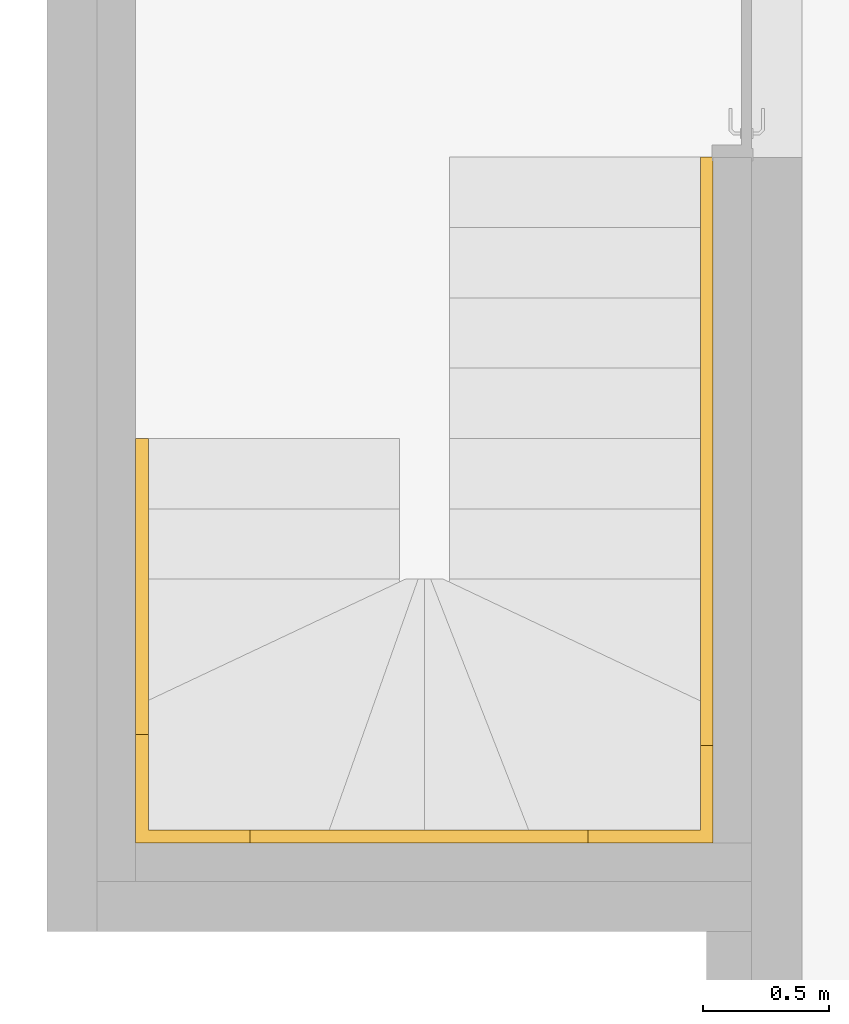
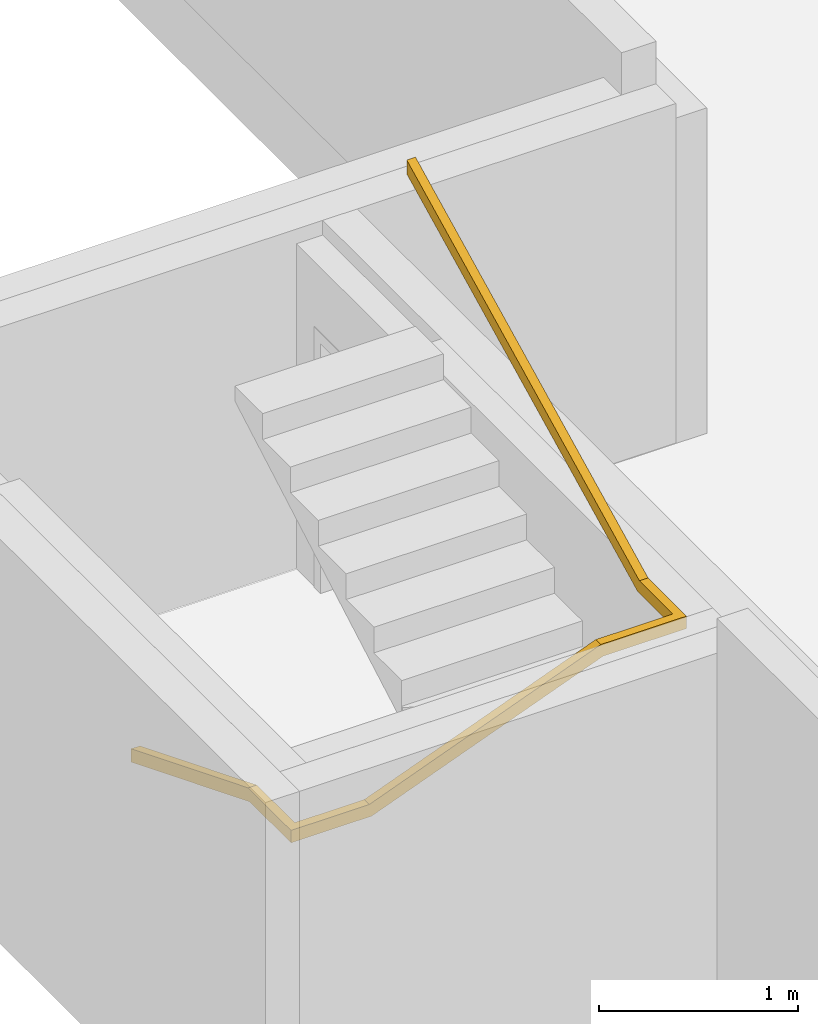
# One storey, part 6 of 6: 1 railing, 1 element without a shape of its own.
"""IFC2X3 building model written with IfcOpenShell, lengths in centimetres."""

from ifc_helpers import new_model, entity, si_unit, converted_unit, derived_unit, direction, frame, origin, place, context, subcontext, project, spatial, faceted_brep, element, aggregate, save


model = new_model("IFC2X3")

# Units and contexts
model_context = context("Model", 3, precision=0.001, world=origin(), true_north=direction((6.12303176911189e-17, 1.0)))
body_context = subcontext(model_context, "Body", "Model", "MODEL_VIEW")
ifc_project = project(units=[si_unit("LENGTHUNIT", "METRE", prefix="CENTI"), si_unit("AREAUNIT", "SQUARE_METRE"), si_unit("VOLUMEUNIT", "CUBIC_METRE"), converted_unit("PLANEANGLEUNIT", "DEGREE", entity("IfcRatioMeasure", 0.0174532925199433), si_unit("PLANEANGLEUNIT", "RADIAN"), dimensions=[0, 0, 0, 0, 0, 0, 0]), si_unit("MASSUNIT", "GRAM", prefix="KILO"), derived_unit("MASSDENSITYUNIT", [(si_unit("MASSUNIT", "GRAM", prefix="KILO"), 1), (si_unit("LENGTHUNIT", "METRE"), -3)]), si_unit("TIMEUNIT", "SECOND"), si_unit("FREQUENCYUNIT", "HERTZ"), si_unit("THERMODYNAMICTEMPERATUREUNIT", "DEGREE_CELSIUS"), derived_unit("THERMALTRANSMITTANCEUNIT", [(si_unit("MASSUNIT", "GRAM", prefix="KILO"), 1), (si_unit("THERMODYNAMICTEMPERATUREUNIT", "KELVIN"), -1), (si_unit("TIMEUNIT", "SECOND"), -3)]), derived_unit("VOLUMETRICFLOWRATEUNIT", [(si_unit("LENGTHUNIT", "METRE"), 3), (si_unit("TIMEUNIT", "SECOND"), -1)]), si_unit("ELECTRICCURRENTUNIT", "AMPERE"), si_unit("ELECTRICVOLTAGEUNIT", "VOLT"), si_unit("POWERUNIT", "WATT"), si_unit("FORCEUNIT", "NEWTON", prefix="KILO"), si_unit("ILLUMINANCEUNIT", "LUX"), si_unit("LUMINOUSFLUXUNIT", "LUMEN"), si_unit("LUMINOUSINTENSITYUNIT", "CANDELA"), derived_unit("USERDEFINED", [(si_unit("MASSUNIT", "GRAM", prefix="KILO"), -1), (si_unit("LENGTHUNIT", "METRE"), -2), (si_unit("TIMEUNIT", "SECOND"), 3), (si_unit("LUMINOUSFLUXUNIT", "LUMEN"), 1)]), derived_unit("LINEARVELOCITYUNIT", [(si_unit("LENGTHUNIT", "METRE"), 1), (si_unit("TIMEUNIT", "SECOND"), -1)]), si_unit("PRESSUREUNIT", "PASCAL"), derived_unit("USERDEFINED", [(si_unit("LENGTHUNIT", "METRE"), -2), (si_unit("MASSUNIT", "GRAM", prefix="KILO"), 1), (si_unit("TIMEUNIT", "SECOND"), -2)])], contexts=[model_context])

# Site, building, storey
site_placement = place(None, frame((-2781.94577612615, 7442.24238424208, 0.0)))
site = spatial("IfcSite", under=ifc_project, at=site_placement, Name="Default", CompositionType="ELEMENT")
building_placement = place(site_placement, origin())
building = spatial("IfcBuilding", under=site, at=building_placement, CompositionType="ELEMENT")
storey_placement = place(building_placement, frame((0.0, 0.0, -234.674140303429)))
storey = spatial("IfcBuildingStorey", under=building, at=storey_placement, Name="Vide Sanitaire", CompositionType="ELEMENT", Elevation=-234.674140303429)

# Stair, railing
stair_placement = place(storey_placement, origin())
stair = element("IfcStair", 1, at=stair_placement, inside=storey, Name="Escalier coulé sur place:Escalier", ObjectType="Escalier coulé sur place:Monobloc", ShapeType="NOTDEFINED")
railing_placement = place(stair_placement, frame((-11332.182807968, -3765.41966115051, 102.182356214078)))
railing = element("IfcRailing", 2, at=railing_placement, Name="Garde-corps:Garde-corps 1", ObjectType="Garde-corps:Garde-corps 1", PredefinedType="NOTDEFINED", context=body_context, shape_type="Brep", body=[
    faceted_brep([(5.08000000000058, 161.0, 8.21410597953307), (5.08000000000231, 161.0, 0.0), (0.0, 161.0, 0.0), (0.0, 161.0, 8.21410597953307), (5.08000000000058, 43.1514418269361, 55.6490112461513), (5.08000000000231, 41.6754289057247, 48.0290112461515), (0.0, 41.6754289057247, 48.0290112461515), (0.0, 43.1514418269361, 55.6490112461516), (5.08000000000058, 5.08000000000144, 55.6490112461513), (5.08000000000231, 5.08000000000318, 48.0290112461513), (0.0, 0.0, 48.0290112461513), (0.0, 0.0, 55.6490112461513), (45.5039569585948, 5.08000000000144, 55.6490112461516), (46.9045651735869, 5.08000000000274, 48.0290112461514), (46.9045651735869, 0.0, 48.0290112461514), (45.5039569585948, 0.0, 55.6490112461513), (180.088077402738, 5.08000000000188, 106.853934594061), (181.48868561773, 5.08000000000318, 99.2339345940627), (181.48868561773, 0.0, 99.2339345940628), (180.088077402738, 0.0, 106.853934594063), (224.920000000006, 5.08000000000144, 106.853934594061), (224.920000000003, 5.08000000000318, 99.2339345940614), (230.0, 0.0, 99.2339345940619), (230.0, 0.0, 106.853934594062), (224.920000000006, 38.7591093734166, 106.853934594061), (224.920000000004, 40.5502955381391, 99.2339345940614), (230.0, 40.5502955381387, 99.233934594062), (230.0, 38.7591093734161, 106.853934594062), (224.920000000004, 273.0, 223.41777687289), (230.0, 273.0, 223.41777687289), (230.0, 273.0, 214.906440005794), (224.920000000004, 273.0, 214.906440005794)], [[[0, 1, 2, 3]], [[1, 0, 4, 5]], [[2, 1, 5, 6]], [[3, 2, 6, 7]], [[0, 3, 7, 4]], [[5, 4, 8, 9]], [[6, 5, 9, 10]], [[7, 6, 10, 11]], [[4, 7, 11, 8]], [[9, 8, 12, 13]], [[10, 9, 13, 14]], [[11, 10, 14, 15]], [[8, 11, 15, 12]], [[13, 12, 16, 17]], [[14, 13, 17, 18]], [[15, 14, 18, 19]], [[12, 15, 19, 16]], [[17, 16, 20, 21]], [[18, 17, 21, 22]], [[19, 18, 22, 23]], [[16, 19, 23, 20]], [[21, 20, 24, 25]], [[22, 21, 25, 26]], [[23, 22, 26, 27]], [[20, 23, 27, 24]], [[28, 29, 30, 31]], [[25, 24, 28, 31]], [[26, 25, 31, 30]], [[27, 26, 30, 29]], [[24, 27, 29, 28]]]),
])
aggregate(stair, [railing])

save(model, "model.ifc")
